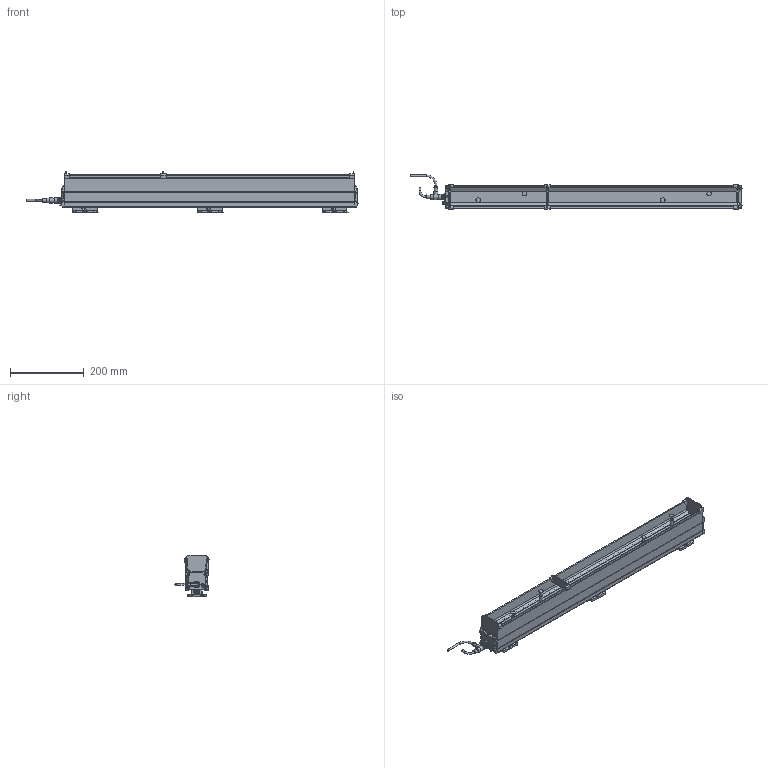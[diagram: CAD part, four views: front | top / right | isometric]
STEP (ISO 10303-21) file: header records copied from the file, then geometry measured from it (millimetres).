
FILE_DESCRIPTION(/* description */ (''),/* implementation_level */ '2;1');
FILE_NAME(/* name */ 'THUNDERION2_3D_0625-0820',/* time_stamp */ '2017-09-28T10:52:56+02:00',/* author */ (''),/* organization */ (''),/* preprocessor_version */ 'ST-DEVELOPER v15.7',/* originating_system */ 'HiCAD 2015 2002.1 Build 408',/* authorisation */ '');
FILE_SCHEMA (('AUTOMOTIVE_DESIGN { 1 0 10303 214 1 1 1 1 }'));
Products named in the file (91): Root; -_ThunderION 0625/0820; -_Side profile; -_Bar; -_Connector straight; EXTRUDED SOLID_0; -_Cord; REVOLVED SOLID_1; REVOLVED SOLID_3; DIN 13-M12x1,5; -_Connector angled; REVOLVED SOLID_2; 4532000100_Mounting bracket bars; -_Side piece; -_Slide piece; -_Bracket small; DIN 13-M3; DIN 76-M3; -_Cable End; light pipe M; light pipe L; -_Cap CE; -_Stud M4; -_Connector M12 male 5 pole_1; -_Contacts; ABSR_1_2_1_1_Inner part; ABSR_1_2_1_2_Inner part; bus; Pg 9; -_Ring tongue terminal; 9230000020_Nut M4; GEWINDE; 9240100020_Spring washer M4; ISO 7051-ST3.5x9.5-C-H_Tapping screws_0; -_Fill; -_Dead end; -_Cap DE; -_Emitter; -_Support Side Profile; -_End Plate
Assembly tree (90 placements, depth 6):
  Root
    -_ThunderION 0625/0820
      -_Side profile
      -_Side profile
      -_Bar
      -_Connector straight
        EXTRUDED SOLID_0
        -_Cord
        REVOLVED SOLID_1
        REVOLVED SOLID_3
          DIN 13-M12x1,5
      -_Connector angled
        REVOLVED SOLID_1
        EXTRUDED SOLID_0
        -_Cord
        REVOLVED SOLID_2
        REVOLVED SOLID_3
          DIN 13-M12x1,5
      4532000100_Mounting bracket bars
        -_Side piece
        -_Side piece
        -_Slide piece
        -_Bracket small
          DIN 13-M3
          DIN 13-M3
          DIN 76-M3
          DIN 76-M3
      4532000100_Mounting bracket bars
        -_Side piece
        -_Side piece
        -_Slide piece
        -_Bracket small
          DIN 13-M3
          DIN 13-M3
          DIN 76-M3
          DIN 76-M3
      4532000100_Mounting bracket bars
        -_Side piece
        -_Side piece
        -_Slide piece
        -_Bracket small
          DIN 13-M3
          DIN 13-M3
          DIN 76-M3
          DIN 76-M3
      -_Cable End
        light pipe M
        light pipe L
        light pipe L
        -_Cap CE
        -_Stud M4
        -_Connector M12 male 5 pole_1
          -_Contacts
          ABSR_1_2_1_1_Inner part
          ABSR_1_2_1_2_Inner part
          bus
            Pg 9
        -_Ring tongue terminal
        9230000020_Nut M4
          GEWINDE
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Bounding box: 898.34 x 92.25 x 113 mm (x, y, z)
Volume: 2611957.7 mm3; surface area: 657137.2 mm2
Topology: 85 solids, 94 shells, 3534 faces, 9147 edges, 5635 vertices
Faces by surface type: plane 1572, cylinder 1294, bspline 216, cone 161, torus 155, sphere 136
Full cylindrical faces by diameter (mm): 0.8 x10, 1 x10, 2.387 x12, 2.5 x1, 2.64 x16, 3 x24, 3.141 x2, 3.5 x8, 4 x26, 4.2 x3, 4.4 x1, 5 x4, 5.5 x15, 7.3 x8, 8 x2, 8.4 x2, 9 x6, 9.6 x1, 10 x2, 10.16 x1, 10.5 x2, 11 x4, 12 x5, 12.8 x1, 13.8 x4, 13.86 x1, 14.5 x3, 15.199 x1, 15.2 x1
Entity records: 223316 total; most frequent: CARTESIAN_POINT 71005, DIRECTION 17385, PRESENTATION_STYLE_ASSIGNMENT 17180, OVER_RIDING_STYLED_ITEM 17099, DRAUGHTING_PRE_DEFINED_CURVE_FONT 17072, CURVE_STYLE 17072, ORIENTED_EDGE 17072, EDGE_CURVE 8536
